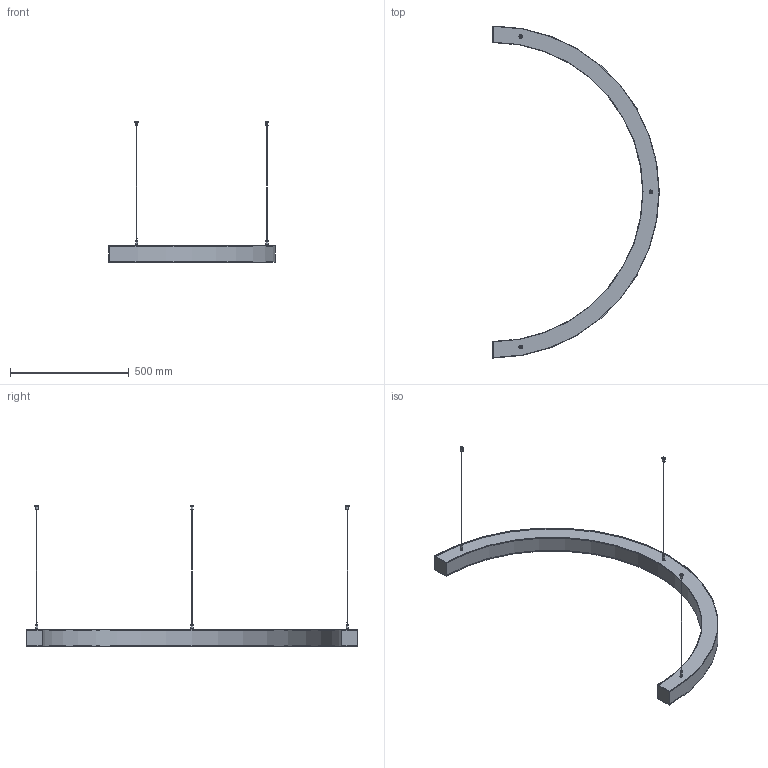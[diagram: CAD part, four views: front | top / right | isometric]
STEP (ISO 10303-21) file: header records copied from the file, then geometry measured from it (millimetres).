
FILE_DESCRIPTION(('STEP AP203'), '1');
FILE_NAME('Half RIN 70 1400mm', '', ('UNSPECIFIED'), ('UNSPECIFIED'), 'C3D Converter', 'C3D Toolkit', '');
FILE_SCHEMA(('CONFIG_CONTROL_DESIGN'));
Length unit declared in the file: millimetre
Assembly tree (13 placements, depth 4):
  (unnamed)
    (unnamed)
    (unnamed)
    (unnamed)
    (unnamed)  x2
    (unnamed)  x3
      (unnamed)
        (unnamed)
        (unnamed)
      (unnamed)
      (unnamed)
Bounding box: 702.5 x 1400 x 593 mm (x, y, z)
Volume: 945926.9 mm3; surface area: 1280490 mm2
Topology: 18 solids, 18 shells, 163 faces, 315 edges, 209 vertices
Faces by surface type: plane 111, cylinder 49, cone 3
Full cylindrical faces by diameter (mm): 2 x3, 2.5 x3, 4 x3, 4.5 x3, 4.7 x3, 5 x6, 6 x3, 8.8 x3, 9 x6, 11 x3, 15 x3
Entity records: 2699 total; most frequent: DIRECTION 380, CARTESIAN_POINT 333, ORIENTED_EDGE 278, AXIS2_PLACEMENT_3D 150, EDGE_CURVE 139, EDGE_LOOP 108, VERTEX_POINT 103, LINE 80
